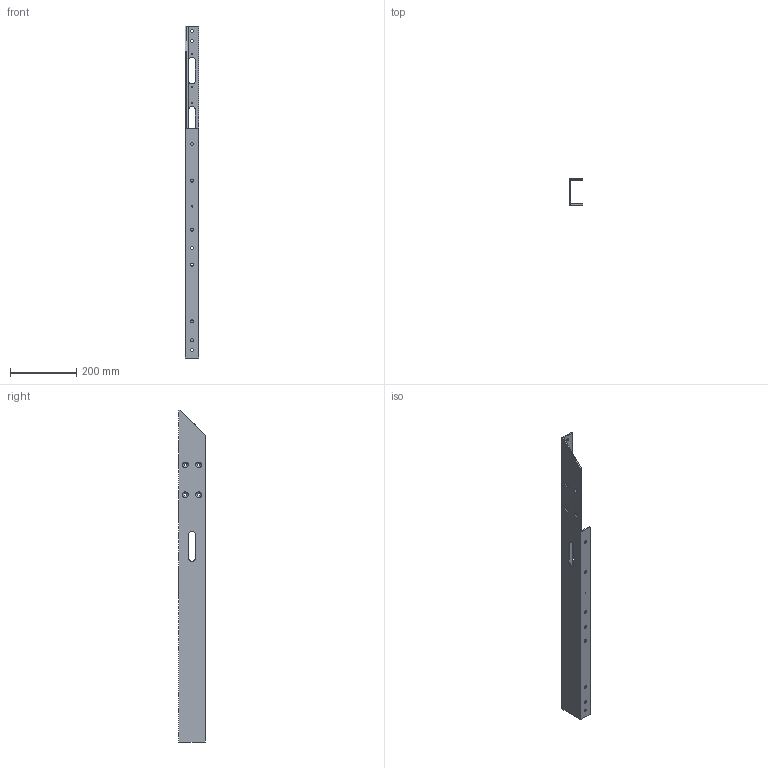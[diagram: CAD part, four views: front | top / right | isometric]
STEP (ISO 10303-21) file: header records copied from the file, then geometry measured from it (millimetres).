
FILE_DESCRIPTION (( 'STEP AP214' ), '1' );
FILE_NAME ('ÂØÀÅ.746212.007 Øâåëëåð.STEP', '2024-04-17T13:40:00', ( '' ), ( '' ), 'SwSTEP 2.0', 'SolidWorks 2019', '' );
FILE_SCHEMA (( 'AUTOMOTIVE_DESIGN' ));
Length unit declared in the file: millimetre
Products named in the file (1): ÂØÀÅ.746212.007 Øâåëëåð
Bounding box: 40 x 80 x 999 mm (x, y, z)
Volume: 528671.8 mm3; surface area: 271298.1 mm2
Topology: 1 solids, 1 shells, 90 faces, 263 edges, 175 vertices
Faces by surface type: cylinder 62, plane 20, cone 8
Entity records: 3374 total; most frequent: DIRECTION 583, CARTESIAN_POINT 532, ORIENTED_EDGE 526, EDGE_CURVE 263, AXIS2_PLACEMENT_3D 230, VERTEX_POINT 175, EDGE_LOOP 154, CIRCLE 139
